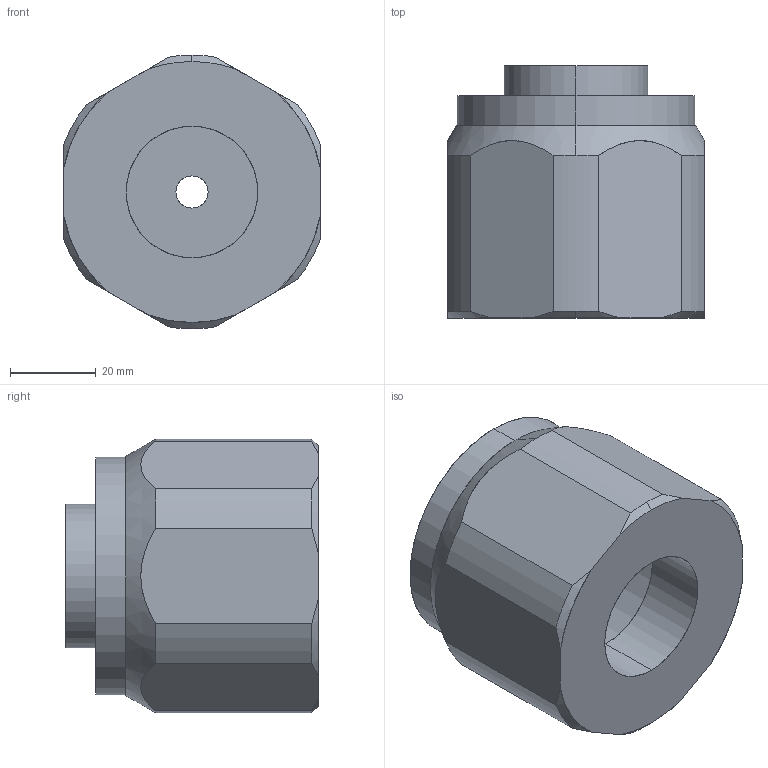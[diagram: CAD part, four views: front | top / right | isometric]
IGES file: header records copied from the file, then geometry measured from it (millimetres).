
Start section: SolidWorks IGES file using analytic representation for surfaces
Global section: file name: G:\Silvent\Ritningar\Övrigt\IGES\Silvent 735+L.IGS; native system: SolidWorks 2011; preprocessor: SolidWorks 2011; author: silvrati; date: 111209.092104; units: millimetre
Bounding box: 60 x 59 x 64 mm (x, y, z)
Surface area: 25306.2 mm2 (no closed solid volume)
Topology: 0 solids, 0 shells, 52 faces, 629 edges, 629 vertices
Faces by surface type: revolution 36, bspline 16
